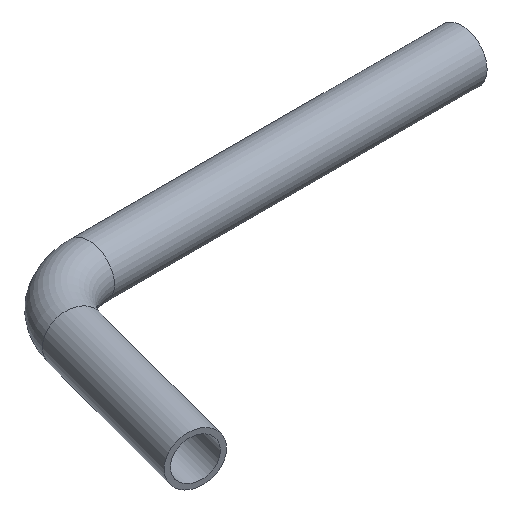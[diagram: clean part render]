
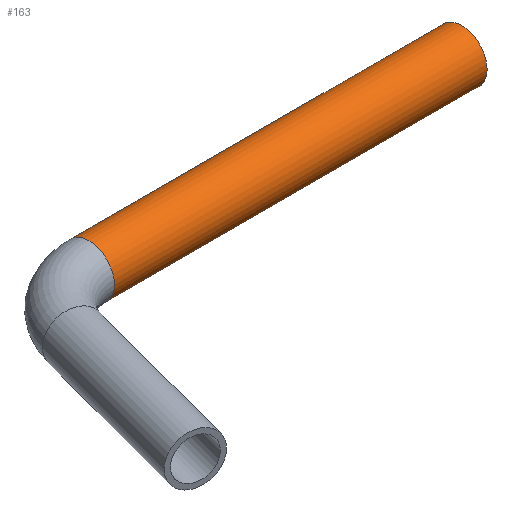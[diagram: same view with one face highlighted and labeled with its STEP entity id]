
A CAD part, isometric view. The second image highlights one B-rep face of the part: STEP entity #163.
In plain terms, the highlighted cylindrical face has radius 7.5 mm (diameter 15 mm), a full revolution.
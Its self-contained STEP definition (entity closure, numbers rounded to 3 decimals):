
#136=CARTESIAN_POINT('',(0.,20.0,0.0));
#137=DIRECTION('',(1.0,0.,0.0));
#138=DIRECTION('',(0.0,-1.0,0.0));
#139=AXIS2_PLACEMENT_3D('',#136,#137,#138);
#140=CYLINDRICAL_SURFACE('',#139,7.5);
#141=CARTESIAN_POINT('',(109.653,27.5,0.));
#142=VERTEX_POINT('',#141);
#143=CARTESIAN_POINT('',(109.653,20.,0.0));
#144=DIRECTION('',(-1.0,0.0,0.0));
#145=DIRECTION('',(0.0,-1.0,0.0));
#146=AXIS2_PLACEMENT_3D('',#143,#144,#145);
#147=CIRCLE('',#146,7.5);
#148=EDGE_CURVE('',#142,#142,#147,.T.);
#149=ORIENTED_EDGE('',*,*,#148,.T.);
#150=EDGE_LOOP('',(#149));
#151=FACE_OUTER_BOUND('',#150,.T.);
#152=CARTESIAN_POINT('',(0.,27.5,0.));
#153=VERTEX_POINT('',#152);
#154=CARTESIAN_POINT('',(0.,20.0,0.0));
#155=DIRECTION('',(-1.0,0.0,0.0));
#156=DIRECTION('',(0.0,-1.0,0.0));
#157=AXIS2_PLACEMENT_3D('',#154,#155,#156);
#158=CIRCLE('',#157,7.5);
#159=EDGE_CURVE('',#153,#153,#158,.T.);
#160=ORIENTED_EDGE('',*,*,#159,.F.);
#161=EDGE_LOOP('',(#160));
#162=FACE_BOUND('',#161,.T.);
#163=ADVANCED_FACE('',(#151,#162),#140,.T.);
